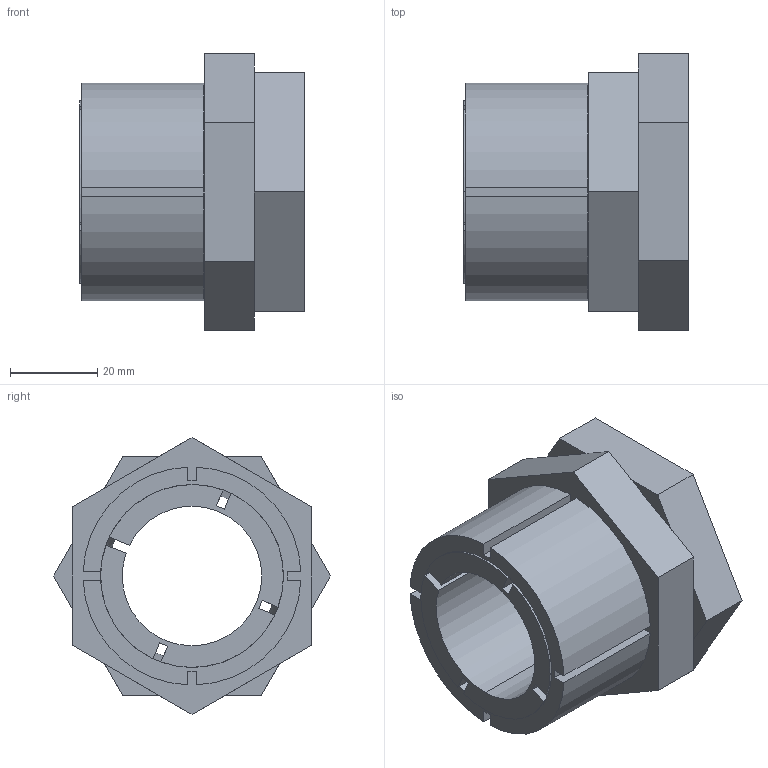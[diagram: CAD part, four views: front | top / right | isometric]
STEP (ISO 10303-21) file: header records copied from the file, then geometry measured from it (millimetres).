
FILE_DESCRIPTION (( 'STEP AP203' ), '1' );
FILE_NAME ('KBS 59 - 32 x 50.STEP', '2015-07-07T21:07:09', ( '' ), ( '' ), 'SwSTEP 2.0', 'SolidWorks 2010', '' );
FILE_SCHEMA (( 'CONFIG_CONTROL_DESIGN' ));
Length unit declared in the file: millimetre
Products named in the file (1): KBS 59 - 32 x 50
Bounding box: 51.5 x 63.51 x 63.51 mm (x, y, z)
Volume: 71914.4 mm3; surface area: 34061.9 mm2
Topology: 3 solids, 3 shells, 78 faces, 204 edges, 132 vertices
Faces by surface type: plane 56, cylinder 14, cone 8
Entity records: 2469 total; most frequent: CARTESIAN_POINT 451, ORIENTED_EDGE 408, DIRECTION 396, EDGE_CURVE 204, LINE 150, VECTOR 150, VERTEX_POINT 132, AXIS2_PLACEMENT_3D 123
